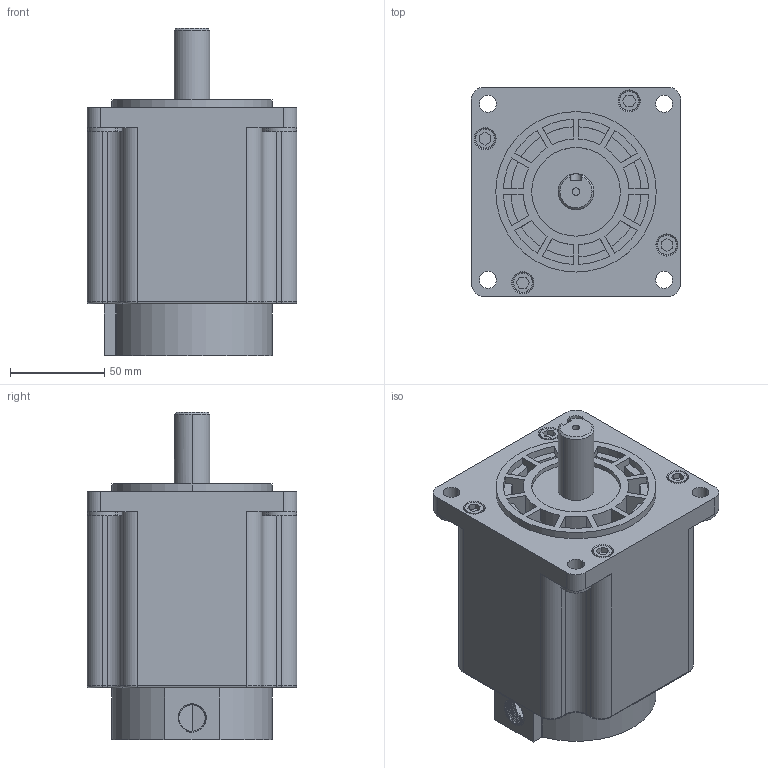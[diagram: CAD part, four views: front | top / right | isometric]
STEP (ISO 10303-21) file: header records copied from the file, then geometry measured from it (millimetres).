
FILE_DESCRIPTION((''),'2;1');
FILE_NAME('QL31112A','2022-07-02T18:49:05',('qingl'),(''),'CREO PARAMETRIC BY PTC INC, 2019224','CREO PARAMETRIC BY PTC INC, 2019224','');
FILE_SCHEMA(('CONFIG_CONTROL_DESIGN'));
Length unit declared in the file: millimetre
Products named in the file (1): QL31112A
Bounding box: 111 x 111 x 173.5 mm (x, y, z)
Volume: 1190174.7 mm3; surface area: 106975.8 mm2
Topology: 1 solids, 1 shells, 488 faces, 1332 edges, 878 vertices
Faces by surface type: cylinder 309, plane 144, torus 12, bspline 10, cone 9, extrusion 4
Entity records: 21660 total; most frequent: CARTESIAN_POINT 9719, ORIENTED_EDGE 2664, DIRECTION 2216, EDGE_CURVE 1332, VERTEX_POINT 878, AXIS2_PLACEMENT_3D 791, VECTOR 634, LINE 630
